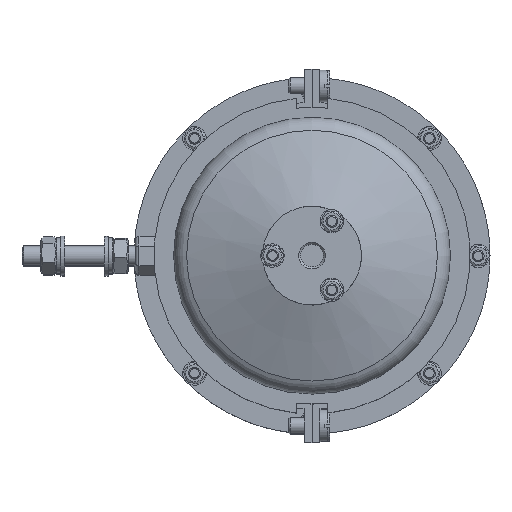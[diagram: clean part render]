
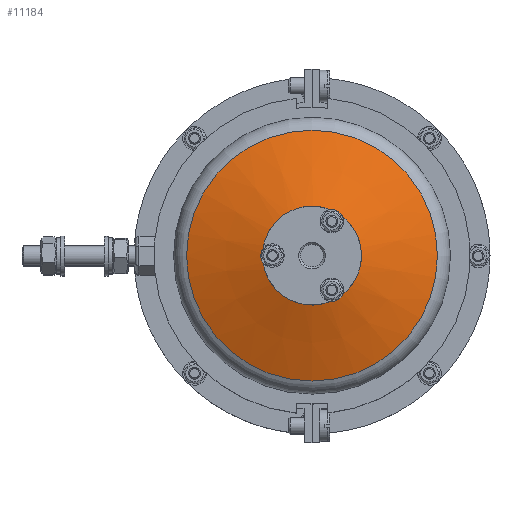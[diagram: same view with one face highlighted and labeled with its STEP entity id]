
A CAD part, top view. The second image highlights one B-rep face of the part: STEP entity #11184.
In plain terms, the highlighted conical face has half-angle 70 degrees and reference radius 44.21 mm.
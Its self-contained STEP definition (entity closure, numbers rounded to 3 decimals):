
#725=FACE_BOUND($,#2620,.T.);
#1030=CONICAL_SURFACE($,#12442,44.21,70.);
#1620=FACE_OUTER_BOUND($,#2619,.T.);
#2619=EDGE_LOOP($,(#9276));
#2620=EDGE_LOOP($,(#9277));
#3174=CIRCLE($,#12441,63.42);
#3175=CIRCLE($,#12443,25.);
#5222=VERTEX_POINT($,#19334);
#5223=VERTEX_POINT($,#19337);
#6597=EDGE_CURVE($,#5222,#5222,#3174,.T.);
#6598=EDGE_CURVE($,#5223,#5223,#3175,.T.);
#9276=ORIENTED_EDGE($,*,*,#6598,.F.);
#9277=ORIENTED_EDGE($,*,*,#6597,.T.);
#11184=ADVANCED_FACE($,(#1620,#725),#1030,.T.);
#12441=AXIS2_PLACEMENT_3D($,#19335,#15463,#15464);
#12442=AXIS2_PLACEMENT_3D($,#19336,#15465,#15466);
#12443=AXIS2_PLACEMENT_3D($,#19338,#15467,#15468);
#15463=DIRECTION('center_axis',(0.,0.,
1.));
#15464=DIRECTION('ref_axis',(0.,-1.,0.));
#15465=DIRECTION('center_axis',(0.,0.,
-1.));
#15466=DIRECTION('ref_axis',(0.,-1.,0.));
#15467=DIRECTION('center_axis',(0.,0.,
1.));
#15468=DIRECTION('ref_axis',(0.,-1.,0.));
#19334=CARTESIAN_POINT('',(0.,-63.42,71.016));
#19335=CARTESIAN_POINT('Origin',(0.,0.,
71.016));
#19336=CARTESIAN_POINT('Origin',(0.,0.,
78.008));
#19337=CARTESIAN_POINT('',(0.,-25.,85.));
#19338=CARTESIAN_POINT('Origin',(0.,0.,
85.));
